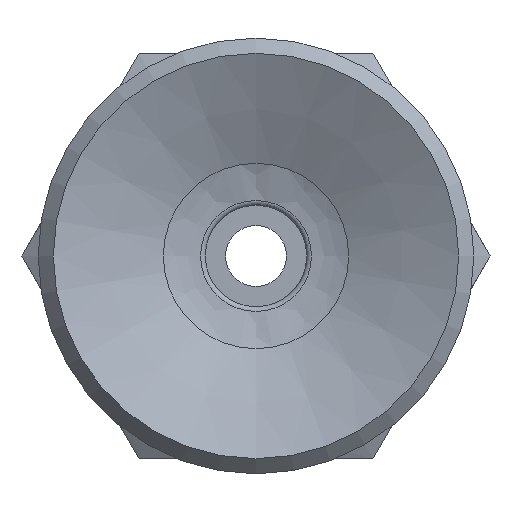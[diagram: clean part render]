
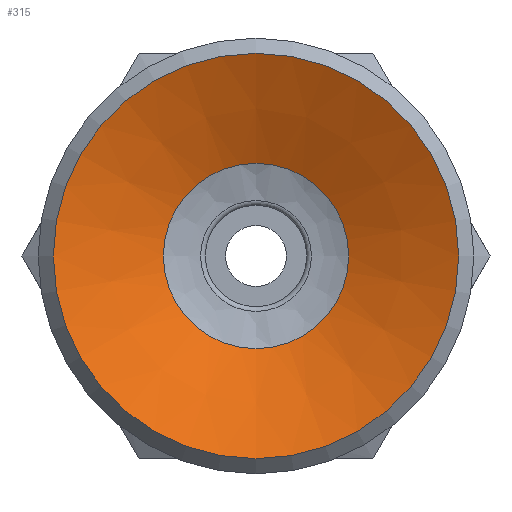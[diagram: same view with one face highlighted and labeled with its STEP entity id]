
A CAD part, front view. The second image highlights one B-rep face of the part: STEP entity #315.
In plain terms, the highlighted conical face has half-angle 65 degrees and reference radius 1.427 mm.
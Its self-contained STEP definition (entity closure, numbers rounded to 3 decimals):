
#315=ADVANCED_FACE('',(#452,#453),#454,.F.);
#452=FACE_BOUND('',#606,.T.);
#453=FACE_OUTER_BOUND('',#607,.T.);
#454=CONICAL_SURFACE('',#608,1.427,1.134);
#606=EDGE_LOOP('',(#931));
#607=EDGE_LOOP('',(#932));
#608=AXIS2_PLACEMENT_3D('',#933,#934,#935);
#931=ORIENTED_EDGE('',*,*,#1042,.T.);
#932=ORIENTED_EDGE('',*,*,#1030,.T.);
#933=CARTESIAN_POINT('',(0.0,7.096,0.));
#934=DIRECTION('',(-0.0,-1.0,0.));
#935=DIRECTION('',(0.0,0.,-1.0));
#1030=EDGE_CURVE('',#1147,#1147,#1148,.T.);
#1042=EDGE_CURVE('',#1171,#1171,#1172,.T.);
#1147=VERTEX_POINT('',#1315);
#1148=CIRCLE('',#1316,4.0);
#1171=VERTEX_POINT('',#1339);
#1172=CIRCLE('',#1340,1.828);
#1315=CARTESIAN_POINT('',(0.0,5.896,-4.0));
#1316=AXIS2_PLACEMENT_3D('',#1456,#1457,#1458);
#1339=CARTESIAN_POINT('',(0.0,6.909,-1.828));
#1340=AXIS2_PLACEMENT_3D('',#1492,#1493,#1494);
#1456=CARTESIAN_POINT('',(0.0,5.896,0.0));
#1457=DIRECTION('',(0.0,-1.0,0.));
#1458=DIRECTION('',(0.0,0.,-1.0));
#1492=CARTESIAN_POINT('',(0.0,6.909,0.0));
#1493=DIRECTION('',(0.0,1.0,0.));
#1494=DIRECTION('',(0.0,0.,-1.0));
